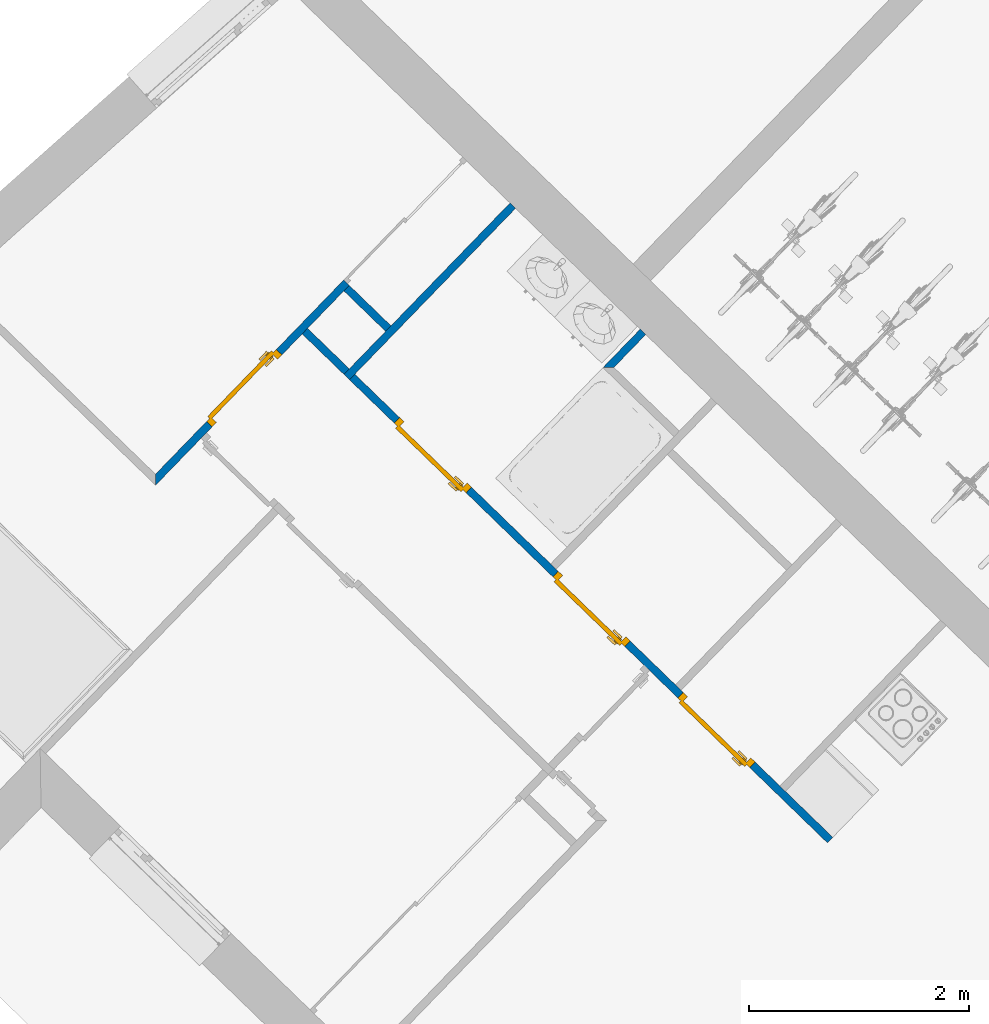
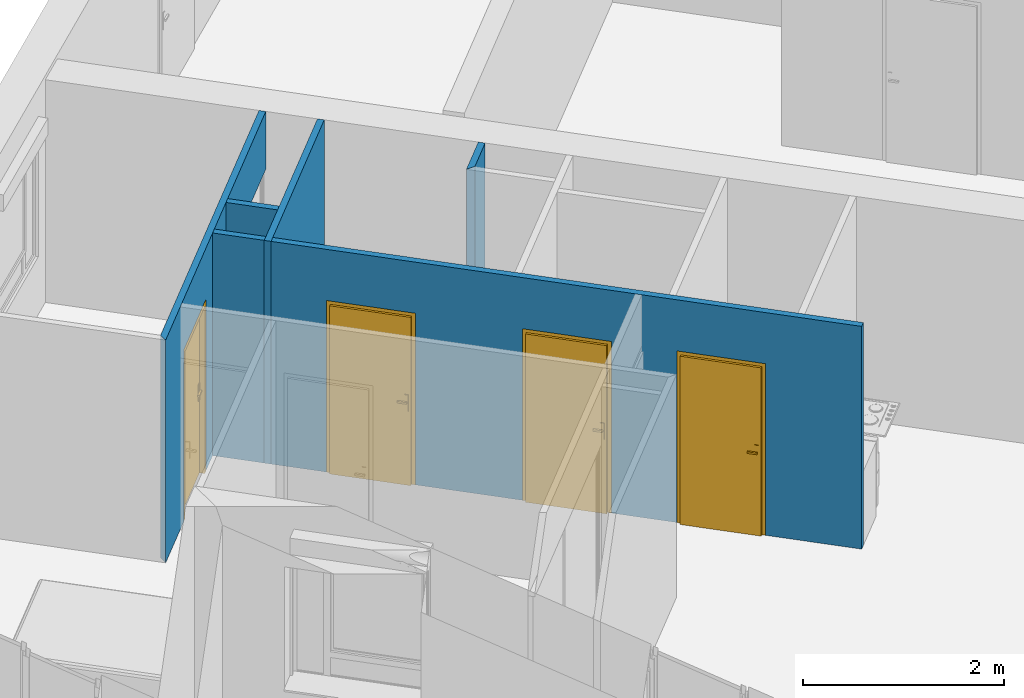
# One storey, part 19 of 195: 5 walls, 4 doors, 5 openings.
"""IFC2X3 building model written with IfcOpenShell, lengths in metres."""

from ifc_helpers import new_model, entity, si_unit, converted_unit, derived_unit, money_unit, direction, frame, origin_with_axes, origin_2d_with_axis, place, context, subcontext, project, spatial, polyline, rectangle, outline, extrude, faceted_brep, source, transform, mapped, material, layer, layer_set, layer_usage, type_object, element, fill, save


model = new_model("IFC2X3")

# Units and contexts
model_context = context("Model", 3, precision=1e-05, world=origin_with_axes(), true_north=direction((0.0, 1.0)))
body_context = subcontext(model_context, "Body", "Model", "MODEL_VIEW")
ifc_project = project(units=[si_unit("LENGTHUNIT", "METRE"), si_unit("AREAUNIT", "SQUARE_METRE"), si_unit("VOLUMEUNIT", "CUBIC_METRE"), converted_unit("PLANEANGLEUNIT", "DEGREE", entity("IfcPlaneAngleMeasure", 0.0174532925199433), si_unit("PLANEANGLEUNIT", "RADIAN"), dimensions=[0, 0, 0, 0, 0, 0, 0]), money_unit("CHF"), converted_unit("TIMEUNIT", "Year", entity("IfcTimeMeasure", 31557600.0), si_unit("TIMEUNIT", "SECOND"), dimensions=[0, 0, 1, 0, 0, 0, 0]), si_unit("MASSUNIT", "GRAM", prefix="KILO"), si_unit("THERMODYNAMICTEMPERATUREUNIT", "DEGREE_CELSIUS"), si_unit("LUMINOUSINTENSITYUNIT", "LUMEN"), si_unit("ENERGYUNIT", "JOULE", prefix="MEGA"), derived_unit("THERMALCONDUCTANCEUNIT", [(si_unit("POWERUNIT", "WATT"), 1), (si_unit("LENGTHUNIT", "METRE"), -1), (si_unit("THERMODYNAMICTEMPERATUREUNIT", "KELVIN"), -1)]), derived_unit("SPECIFICHEATCAPACITYUNIT", [(si_unit("ENERGYUNIT", "JOULE"), 1), (si_unit("MASSUNIT", "GRAM", prefix="KILO"), -1), (si_unit("THERMODYNAMICTEMPERATUREUNIT", "KELVIN"), -1)]), derived_unit("MASSDENSITYUNIT", [(si_unit("MASSUNIT", "GRAM", prefix="KILO"), 1), (si_unit("VOLUMEUNIT", "CUBIC_METRE"), -1)])], contexts=[model_context])

# Site, building, storey
site_placement = place(None, origin_with_axes())
site = spatial("IfcSite", under=ifc_project, at=site_placement, Name="Site", CompositionType="ELEMENT")
building_placement = place(site_placement, origin_with_axes())
building = spatial("IfcBuilding", under=site, at=building_placement, Name="Bâtiment", CompositionType="ELEMENT")
storey_placement = place(building_placement, origin_with_axes())
storey = spatial("IfcBuildingStorey", under=building, at=storey_placement, Name="rdc", CompositionType="ELEMENT", Elevation=0.0)

# Walls
ifc_material = material(Name="Hachure solide 268963992")
ifc_layer = layer(ifc_material, 0.07, ventilated="UNKNOWN")
ifc_layer_set = layer_set([ifc_layer], Name="Cloison 70 0826278243")
ifc_layer_usage_1 = layer_usage(ifc_layer_set, "AXIS2", "NEGATIVE", 0.0)
wall_type = type_object("IfcWallType", Name="Cloison 70 0826278243 70", PredefinedType="NOTDEFINED")
wall_1_placement = place(storey_placement, frame((9521.331654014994, -1059.940417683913, 57.7), z_axis=(0.0, 0.0, 1.0), x_axis=(-0.695861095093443, -0.7181763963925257, 0.0)))
element("IfcWallStandardCase", 1, at=wall_1_placement, inside=storey, type_object=wall_type, material=ifc_layer_usage_1, Name="Mur-149", context=body_context, shape_type="SweptSolid", body=[
    extrude(outline(polyline([(0.3799999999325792, -0.06999999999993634), (0.8670133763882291, -0.06999999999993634), (0.7970133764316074, 0.0), (0.3799999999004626, 0.0), (0.3799999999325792, -0.06999999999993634)])), origin_with_axes(), (0.0, 0.0, 1.0), 2.7),
])
ifc_layer_usage_2 = layer_usage(ifc_layer_set, "AXIS2", "NEGATIVE", 0.0)
wall_2_placement = place(storey_placement, frame((9520.148447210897, -1058.793975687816, 57.7), z_axis=(0.0, 0.0, 1.0), x_axis=(-0.6958610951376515, -0.718176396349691, 0.0)))
element("IfcWallStandardCase", 2, at=wall_2_placement, inside=storey, type_object=wall_type, material=ifc_layer_usage_2, Name="Mur-149", context=body_context, shape_type="SweptSolid", body=[
    extrude(outline(polyline([(0.3799999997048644, -0.07000000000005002), (2.548769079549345, -0.06999999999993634), (2.548769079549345, 0.0), (0.3799999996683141, 0.0), (0.3799999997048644, -0.07000000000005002)])), origin_with_axes(), (0.0, 0.0, 1.0), 2.7),
])
ifc_layer_usage_3 = layer_usage(ifc_layer_set, "AXIS2", "NEGATIVE", 0.0)
wall_3_placement = place(storey_placement, frame((9518.372514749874, -1059.766882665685, 57.7), z_axis=(0.0, 0.0, 1.0), x_axis=(0.7181763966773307, -0.6958610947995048, 0.0)))
element("IfcWallStandardCase", 3, at=wall_3_placement, inside=storey, type_object=wall_type, material=ifc_layer_usage_3, Name="Mur-149", context=body_context, shape_type="SweptSolid", body=[
    extrude(outline(polyline([(0.0, -0.06999999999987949), (0.5284246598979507, -0.06999999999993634), (0.5284246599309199, 0.0), (0.0, 0.0), (0.0, -0.06999999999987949)])), origin_with_axes(), (0.0, 0.0, 1.0), 2.7),
])

# Wall, openings, door
ifc_layer_usage_4 = layer_usage(ifc_layer_set, "AXIS2", "NEGATIVE", 0.0)
wall_4_placement = place(storey_placement, frame((9519.718672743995, -1058.377555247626, 57.7), z_axis=(0.0, 0.0, 1.0), x_axis=(-0.69586109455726, -0.7181763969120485, 0.0)))
wall_4 = element("IfcWallStandardCase", 4, at=wall_4_placement, inside=storey, type_object=wall_type, material=ifc_layer_usage_4, Name="Mur-149", context=body_context, shape_type="SweptSolid", body=[
    extrude(outline(polyline([(0.3799999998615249, -0.07000000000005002), (4.392299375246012, -0.06999999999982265), (4.462299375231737, 0.0), (0.3799999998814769, 0.0), (0.3799999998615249, -0.07000000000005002)])), origin_with_axes(), (0.0, 0.0, 1.0), 2.7),
])
opening_1_placement = place(wall_4_placement, frame((3.268545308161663, 0.0, 0.0), z_axis=(0.0, 0.0, 1.0), x_axis=(1.0, 0.0, 0.0)))
opening_1 = element("IfcOpeningElement", 5, at=opening_1_placement, cuts=wall_4, Name="Por-303", context=body_context, shape_type="SweptSolid", body=[
    extrude(rectangle(XDim=0.9099999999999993, YDim=2.079999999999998, at=origin_2d_with_axis()), frame((0.0, 0.07000000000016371, 1.039999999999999), z_axis=(0.0, 1.0, 0.0), x_axis=(1.0, 0.0, 0.0)), (0.0, 0.0, -1.0), 0.14),
])
opening_2_placement = place(wall_4_placement, frame((1.15726056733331, 0.0, 0.0), z_axis=(0.0, 0.0, 1.0), x_axis=(1.0, 0.0, 0.0)))
element("IfcOpeningElement", 6, at=opening_2_placement, cuts=wall_4, Name="Por-338", context=body_context, shape_type="SweptSolid", body=[
    extrude(rectangle(XDim=1.554521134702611, YDim=2.0, at=origin_2d_with_axis()), frame((0.0, -0.06999999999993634, 1.0), z_axis=(0.0, 1.0, 0.0), x_axis=(1.0, 0.0, 0.0)), (0.0, 0.0, -1.0), 0.07),
    extrude(rectangle(XDim=1.554521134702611, YDim=2.0, at=origin_2d_with_axis()), frame((0.0, -0.07000000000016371, 1.0), z_axis=(0.0, -1.0, 0.0), x_axis=(1.0, 0.0, 0.0)), (0.0, 0.0, -1.0), 0.07),
])
door_style = type_object("IfcDoorStyle", Name="Porte_1v", ConstructionType="NOTDEFINED", OperationType="NOTDEFINED", ParameterTakesPrecedence=False, Sizeable=False)
shared_shape_1 = source(origin_with_axes(), body_context, "Body", "Brep", [
    faceted_brep([(-0.455, 0.0, 0.0), (-0.455, 0.0, 2.08), (0.455, 0.0, 2.08), (0.455, 0.0, 0.0), (0.415, 0.0, 0.0), (0.415, 0.0, 2.04), (-0.415, 0.0, 2.04), (-0.415, 0.0, 0.0), (-0.455, -0.07, 0.0), (-0.455, -0.07, 2.08), (0.455, -0.07, 2.08), (0.455, -0.07, 0.0), (0.4, -0.07, 0.0), (0.4, -0.015, 0.0), (0.415, -0.015, 0.0), (0.415, -0.015, 2.04), (-0.415, -0.015, 2.04), (-0.415, -0.015, 0.0), (-0.4, -0.015, 0.0), (-0.4, -0.07, 0.0), (-0.4, -0.07, 2.025), (0.4, -0.07, 2.025), (0.4, -0.015, 2.025), (-0.4, -0.015, 2.025)], [[[0, 1, 2, 3, 4, 5, 6, 7]], [[8, 9, 1, 0]], [[9, 10, 2, 1]], [[10, 11, 3, 2]], [[3, 11, 12, 13, 14, 4]], [[5, 4, 14, 15]], [[6, 5, 15, 16]], [[7, 6, 16, 17]], [[0, 7, 17, 18, 19, 8]], [[19, 20, 21, 12, 11, 10, 9, 8]], [[22, 13, 12, 21]], [[17, 16, 15, 14, 13, 22, 23, 18]], [[18, 23, 20, 19]], [[23, 22, 21, 20]]]),
    faceted_brep([(0.35, -0.015, 0.9), (0.35, -0.015, 1.1), (0.39, -0.015, 1.1), (0.39, -0.015, 0.9), (0.35, -0.025, 0.9), (0.35, -0.025, 1.1), (0.39, -0.025, 1.1), (0.39, -0.025, 0.9)], [[[0, 1, 2, 3]], [[0, 4, 5, 1]], [[1, 5, 6, 2]], [[2, 6, 7, 3]], [[3, 7, 4, 0]], [[7, 6, 5, 4]]]),
    faceted_brep([(0.28, -0.025, 1.0), (0.28, -0.025, 1.02), (0.38, -0.025, 1.02), (0.38, -0.025, 1.0), (0.28, -0.045, 1.0), (0.28, -0.045, 1.02), (0.38, -0.045, 1.02), (0.38, -0.045, 1.0)], [[[0, 1, 2, 3]], [[0, 4, 5, 1]], [[1, 5, 6, 2]], [[2, 6, 7, 3]], [[3, 7, 4, 0]], [[7, 6, 5, 4]]]),
    faceted_brep([(0.35, 0.035, 0.9), (0.35, 0.035, 1.1), (0.39, 0.035, 1.1), (0.39, 0.035, 0.9), (0.35, 0.025, 0.9), (0.35, 0.025, 1.1), (0.39, 0.025, 1.1), (0.39, 0.025, 0.9)], [[[0, 1, 2, 3]], [[0, 4, 5, 1]], [[1, 5, 6, 2]], [[2, 6, 7, 3]], [[3, 7, 4, 0]], [[7, 6, 5, 4]]]),
    faceted_brep([(0.28, 0.05500000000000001, 1.0), (0.28, 0.05500000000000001, 1.02), (0.38, 0.05500000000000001, 1.02), (0.38, 0.05500000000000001, 1.0), (0.28, 0.035, 1.0), (0.28, 0.035, 1.02), (0.38, 0.035, 1.02), (0.38, 0.035, 1.0)], [[[0, 1, 2, 3]], [[0, 4, 5, 1]], [[1, 5, 6, 2]], [[2, 6, 7, 3]], [[3, 7, 4, 0]], [[7, 6, 5, 4]]]),
    faceted_brep([(0.415, 0.025, 0.0), (0.415, -0.015, 0.0), (-0.415, -0.015, 0.0), (-0.415, 0.025, 0.0), (0.415, 0.025, 2.04), (0.415, -0.015, 2.04), (-0.415, -0.015, 2.04), (-0.415, 0.025, 2.04)], [[[0, 1, 2, 3]], [[4, 5, 1, 0]], [[1, 5, 6, 2]], [[3, 2, 6, 7]], [[0, 3, 7, 4]], [[7, 6, 5, 4]]]),
])
door_1_placement = place(opening_1_placement, frame((0.4150000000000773, 0.0, 0.0), z_axis=(0.0, 0.0, 1.0), x_axis=(-1.0, 0.0, 0.0)))
door_1 = element("IfcDoor", 7, at=door_1_placement, inside=storey, type_object=door_style, Name="Por-303", OverallHeight=2.04, OverallWidth=0.83, context=body_context, shape_type="MappedRepresentation", body=[
    mapped(shared_shape_1, transform((0.4150000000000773, 0.07000000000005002, 0.0))),
])
fill(opening_1, door_1)

# Wall, openings, doors
ifc_layer_usage_5 = layer_usage(ifc_layer_set, "AXIS2", "NEGATIVE", 0.0)
wall_5_placement = place(storey_placement, frame((9517.993793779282, -1060.15774869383, 57.7), z_axis=(0.0, 0.0, 1.0), x_axis=(0.718176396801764, -0.695861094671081, 0.0)))
wall_5 = element("IfcWallStandardCase", 8, at=wall_5_placement, inside=storey, type_object=wall_type, material=ifc_layer_usage_5, Name="Mur-149", context=body_context, shape_type="SweptSolid", body=[
    extrude(outline(polyline([(0.0, -0.06999999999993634), (6.645940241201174, -0.06999999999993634), (6.64594024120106, 0.0), (0.0, 0.0), (0.0, -0.06999999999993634)])), origin_with_axes(), (0.0, 0.0, 1.0), 2.7),
])
opening_3_placement = place(wall_5_placement, frame((3.626540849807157, 0.0, 0.0), z_axis=(0.0, 0.0, 1.0), x_axis=(1.0, 0.0, 0.0)))
opening_3 = element("IfcOpeningElement", 9, at=opening_3_placement, cuts=wall_5, Name="Por-299", context=body_context, shape_type="SweptSolid", body=[
    extrude(rectangle(XDim=0.9099999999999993, YDim=2.079999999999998, at=origin_2d_with_axis()), frame((0.0, 0.06999999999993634, 1.039999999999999), z_axis=(0.0, -1.0, 0.0), x_axis=(-1.0, 0.0, 0.0)), (0.0, 0.0, 1.0), 0.14),
])
opening_4_placement = place(wall_5_placement, frame((5.207516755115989, 0.0, 0.0), z_axis=(0.0, 0.0, 1.0), x_axis=(1.0, 0.0, 0.0)))
opening_4 = element("IfcOpeningElement", 10, at=opening_4_placement, cuts=wall_5, Name="Por-299", context=body_context, shape_type="SweptSolid", body=[
    extrude(rectangle(XDim=0.9099999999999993, YDim=2.079999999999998, at=origin_2d_with_axis()), frame((0.0, 0.06999999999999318, 1.039999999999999), z_axis=(0.0, -1.0, 0.0), x_axis=(-1.0, 0.0, 0.0)), (0.0, 0.0, 1.0), 0.14),
])
opening_5_placement = place(wall_5_placement, frame((1.620188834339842, 0.0, 0.0), z_axis=(0.0, 0.0, 1.0), x_axis=(1.0, 0.0, 0.0)))
opening_5 = element("IfcOpeningElement", 11, at=opening_5_placement, cuts=wall_5, Name="Por-299", context=body_context, shape_type="SweptSolid", body=[
    extrude(rectangle(XDim=0.9099999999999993, YDim=2.079999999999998, at=origin_2d_with_axis()), frame((0.0, 0.06999999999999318, 1.039999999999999), z_axis=(0.0, -1.0, 0.0), x_axis=(-1.0, 0.0, 0.0)), (0.0, 0.0, 1.0), 0.14),
])
shared_shape_2 = source(origin_with_axes(), body_context, "Body", "Brep", [
    faceted_brep([(0.455, 0.0, 0.0), (0.415, 0.0, 0.0), (0.415, 0.0, 2.04), (-0.415, 0.0, 2.04), (-0.415, 0.0, 0.0), (-0.455, 0.0, 0.0), (-0.455, 0.0, 2.08), (0.455, 0.0, 2.08), (0.455, -0.07, 0.0), (0.4, -0.07, 0.0), (0.4, -0.015, 0.0), (0.415, -0.015, 0.0), (0.415, -0.015, 2.04), (-0.415, -0.015, 2.04), (-0.415, -0.015, 0.0), (-0.4, -0.015, 0.0), (-0.4, -0.07, 0.0), (-0.455, -0.07, 0.0), (-0.455, -0.07, 2.08), (0.455, -0.07, 2.08), (-0.4, -0.07, 2.025), (0.4, -0.07, 2.025), (0.4, -0.015, 2.025), (-0.4, -0.015, 2.025)], [[[0, 1, 2, 3, 4, 5, 6, 7]], [[0, 8, 9, 10, 11, 1]], [[1, 11, 12, 2]], [[2, 12, 13, 3]], [[3, 13, 14, 4]], [[5, 4, 14, 15, 16, 17]], [[18, 6, 5, 17]], [[19, 7, 6, 18]], [[8, 0, 7, 19]], [[9, 8, 19, 18, 17, 16, 20, 21]], [[10, 9, 21, 22]], [[11, 10, 22, 23, 15, 14, 13, 12]], [[23, 20, 16, 15]], [[22, 21, 20, 23]]]),
    faceted_brep([(-0.35, -0.015, 0.9), (-0.39, -0.015, 0.9), (-0.39, -0.015, 1.1), (-0.35, -0.015, 1.1), (-0.35, -0.025, 0.9), (-0.39, -0.025, 0.9), (-0.39, -0.025, 1.1), (-0.35, -0.025, 1.1)], [[[0, 1, 2, 3]], [[1, 0, 4, 5]], [[2, 1, 5, 6]], [[3, 2, 6, 7]], [[0, 3, 7, 4]], [[5, 4, 7, 6]]]),
    faceted_brep([(-0.28, -0.025, 1.0), (-0.38, -0.025, 1.0), (-0.38, -0.025, 1.02), (-0.28, -0.025, 1.02), (-0.28, -0.045, 1.0), (-0.38, -0.045, 1.0), (-0.38, -0.045, 1.02), (-0.28, -0.045, 1.02)], [[[0, 1, 2, 3]], [[1, 0, 4, 5]], [[2, 1, 5, 6]], [[3, 2, 6, 7]], [[0, 3, 7, 4]], [[5, 4, 7, 6]]]),
    faceted_brep([(-0.35, 0.035, 0.9), (-0.39, 0.035, 0.9), (-0.39, 0.035, 1.1), (-0.35, 0.035, 1.1), (-0.35, 0.025, 0.9), (-0.39, 0.025, 0.9), (-0.39, 0.025, 1.1), (-0.35, 0.025, 1.1)], [[[0, 1, 2, 3]], [[1, 0, 4, 5]], [[2, 1, 5, 6]], [[3, 2, 6, 7]], [[0, 3, 7, 4]], [[5, 4, 7, 6]]]),
    faceted_brep([(-0.28, 0.05500000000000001, 1.0), (-0.38, 0.05500000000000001, 1.0), (-0.38, 0.05500000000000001, 1.02), (-0.28, 0.05500000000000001, 1.02), (-0.28, 0.035, 1.0), (-0.38, 0.035, 1.0), (-0.38, 0.035, 1.02), (-0.28, 0.035, 1.02)], [[[0, 1, 2, 3]], [[1, 0, 4, 5]], [[2, 1, 5, 6]], [[3, 2, 6, 7]], [[0, 3, 7, 4]], [[5, 4, 7, 6]]]),
    faceted_brep([(-0.415, 0.025, 0.0), (0.415, 0.025, 0.0), (0.415, -0.015, 0.0), (-0.415, -0.015, 0.0), (-0.415, 0.025, 2.04), (0.415, 0.025, 2.04), (0.415, -0.015, 2.04), (-0.415, -0.015, 2.04)], [[[0, 1, 2, 3]], [[0, 4, 5, 1]], [[1, 5, 6, 2]], [[3, 2, 6, 7]], [[4, 0, 3, 7]], [[5, 4, 7, 6]]]),
])
door_2_placement = place(opening_5_placement, frame((0.4149999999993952, 0.0, 0.0), z_axis=(0.0, 0.0, 1.0), x_axis=(-1.0, 0.0, 0.0)))
door_2 = element("IfcDoor", 12, at=door_2_placement, inside=storey, type_object=door_style, Name="Por-299", OverallHeight=2.04, OverallWidth=0.83, context=body_context, shape_type="MappedRepresentation", body=[
    mapped(shared_shape_2, transform((0.4149999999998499, 0.06999999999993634, 0.0))),
])
fill(opening_5, door_2)
door_3_placement = place(opening_3_placement, frame((0.4150000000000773, 0.0, 0.0), z_axis=(0.0, 0.0, 1.0), x_axis=(-1.0, 0.0, 0.0)))
door_3 = element("IfcDoor", 13, at=door_3_placement, inside=storey, type_object=door_style, Name="Por-299", OverallHeight=2.04, OverallWidth=0.83, context=body_context, shape_type="MappedRepresentation", body=[
    mapped(shared_shape_2, transform((0.4149999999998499, 0.06999999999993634, 0.0))),
])
fill(opening_3, door_3)
door_4_placement = place(opening_4_placement, frame((0.4150000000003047, 0.0, 0.0), z_axis=(0.0, 0.0, 1.0), x_axis=(-1.0, 0.0, 0.0)))
door_4 = element("IfcDoor", 14, at=door_4_placement, inside=storey, type_object=door_style, Name="Por-299", OverallHeight=2.04, OverallWidth=0.83, context=body_context, shape_type="MappedRepresentation", body=[
    mapped(shared_shape_2, transform((0.4149999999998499, 0.06999999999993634, 0.0))),
])
fill(opening_4, door_4)

save(model, "model.ifc")
